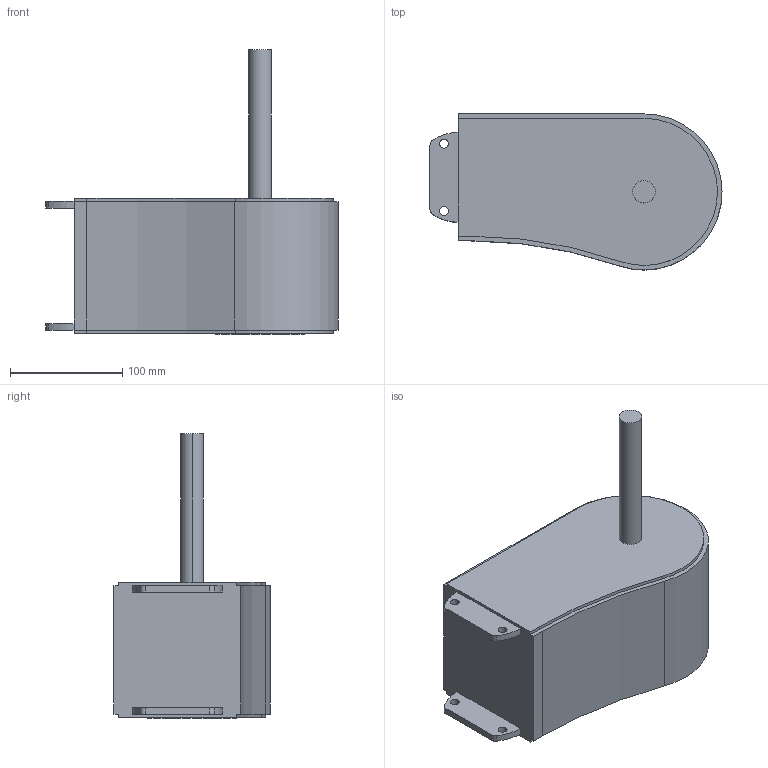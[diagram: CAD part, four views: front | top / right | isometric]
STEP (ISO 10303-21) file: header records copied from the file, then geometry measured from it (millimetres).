
FILE_DESCRIPTION (( 'STEP AP214' ), '1' );
FILE_NAME ('VC.120 Aandrijf & omloopsectie.Z10 rechts.STEP', '2017-02-08T07:42:30', ( '' ), ( '' ), 'SwSTEP 2.0', 'SolidWorks 2016', '' );
FILE_SCHEMA (( 'AUTOMOTIVE_DESIGN' ));
Length unit declared in the file: millimetre
Products named in the file (1): VC.120 Aandrijf & omloopsectie.Z10 rechts
Bounding box: 260 x 138.99 x 253.5 mm (x, y, z)
Volume: 3392640.3 mm3; surface area: 151977.1 mm2
Topology: 1 solids, 1 shells, 45 faces, 117 edges, 78 vertices
Faces by surface type: cylinder 26, plane 19
Entity records: 1453 total; most frequent: DIRECTION 261, CARTESIAN_POINT 241, ORIENTED_EDGE 234, EDGE_CURVE 117, AXIS2_PLACEMENT_3D 98, VERTEX_POINT 78, VECTOR 65, LINE 65
